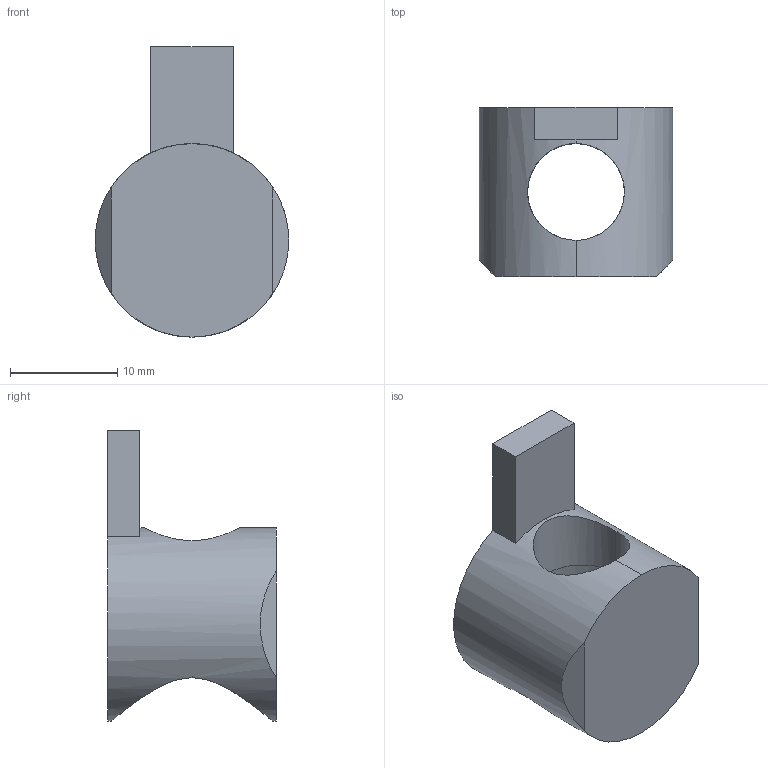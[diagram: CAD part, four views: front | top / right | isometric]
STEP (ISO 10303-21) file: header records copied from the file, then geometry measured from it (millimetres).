
FILE_DESCRIPTION (( 'STEP AP203' ), '1' );
FILE_NAME ('CP-UJT4040.STEP', '2018-03-15T13:01:32', ( '' ), ( '' ), 'SwSTEP 2.0', 'SolidWorks 2013', '' );
FILE_SCHEMA (( 'CONFIG_CONTROL_DESIGN' ));
Length unit declared in the file: millimetre
Products named in the file (1): CP-UJT4040
Bounding box: 18 x 15.7 x 27 mm (x, y, z)
Volume: 1867.5 mm3; surface area: 2064.5 mm2
Topology: 1 solids, 1 shells, 15 faces, 42 edges, 28 vertices
Faces by surface type: plane 9, cylinder 6
Entity records: 719 total; most frequent: CARTESIAN_POINT 258, ORIENTED_EDGE 84, DIRECTION 76, EDGE_CURVE 42, AXIS2_PLACEMENT_3D 28, VERTEX_POINT 28, VECTOR 20, LINE 20
